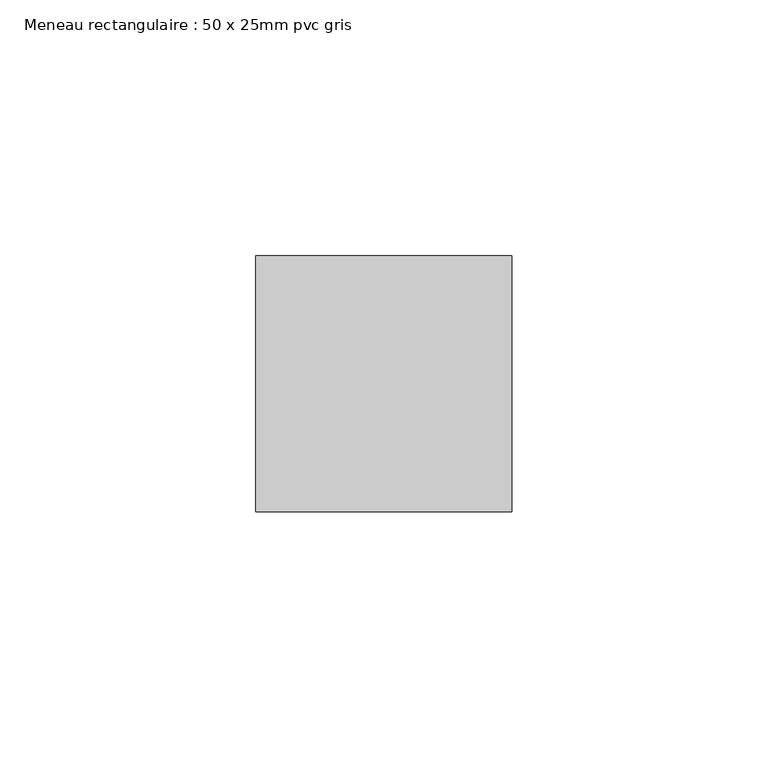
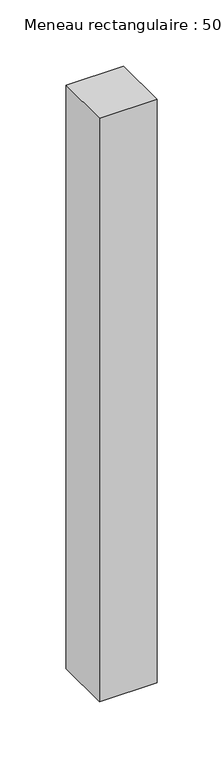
"""IFC4 building model written with IfcOpenShell, lengths in millimetres: member geometry, Meneau rectangulaire : 50 x 25mm pvc gris."""

import ifcopenshell
import ifcopenshell.guid

model = None  # the IFC model being written
_history = None  # IfcOwnerHistory: only IFC2X3 demands one
_inside = {}  # id of a spatial element -> (the spatial element, [elements in it])
_under = {}  # id of a project, library or spatial element -> (it, [spatial elements below it])
_declared = {}  # id of a project -> (the project, [libraries it declares])
_typed = {}  # id of a type object -> (the type object, [elements of that type])
_made_of = {}  # id of a material, layer set ... -> (it, [elements and type objects made of it])


def new_model(schema):
    """Start an empty IFC model of exactly this schema.

    Asked for "IFC4X3", IfcOpenShell would pick the latest addendum, in which some entities
    have other attributes; the version numbers below select the first issue.
    IFC2X3 requires an IfcOwnerHistory on every rooted entity: one is made here for all.
    """
    global model, _history
    if schema == "IFC4X3":
        model = ifcopenshell.file(schema_version=(4, 3, 0, 0))
    else:
        model = ifcopenshell.file(schema=schema)
    _inside.clear()
    _under.clear()
    _declared.clear()
    _typed.clear()
    _made_of.clear()
    _history = None
    if model.schema == "IFC2X3":
        org = make("IfcOrganization", Name="unknown")
        user = make(
            "IfcPersonAndOrganization",
            ThePerson=make("IfcPerson", FamilyName="unknown"),
            TheOrganization=org,
        )
        app = make(
            "IfcApplication",
            ApplicationDeveloper=org,
            Version="unknown",
            ApplicationFullName="unknown",
            ApplicationIdentifier="unknown",
        )
        _history = make(
            "IfcOwnerHistory",
            OwningUser=user,
            OwningApplication=app,
            ChangeAction="ADDED",
            CreationDate=0,
        )
    return model


def make(cls, **values):
    """One entity of the class cls with the attributes given. An attribute that is None is left unset."""
    return model.create_entity(
        cls, **{name: value for name, value in values.items() if value is not None}
    )


def rooted(cls, **values):
    """An entity with a GlobalId (a new one), such as an element, a storey or a relation."""
    return make(cls, GlobalId=ifcopenshell.guid.new(), OwnerHistory=_history, **values)


def si_unit(unit_type, name, prefix=None):
    """IfcSIUnit, for example si_unit("LENGTHUNIT", "METRE", prefix="MILLI")."""
    return make("IfcSIUnit", UnitType=unit_type, Prefix=prefix, Name=name)


def assignment(units):
    """IfcUnitAssignment: the units of a project."""
    return None if units is None else make("IfcUnitAssignment", Units=units)


def point(xyz):
    """IfcCartesianPoint."""
    return None if xyz is None else make("IfcCartesianPoint", Coordinates=xyz)


def direction(xyz):
    """IfcDirection."""
    return None if xyz is None else make("IfcDirection", DirectionRatios=xyz)


def frame(location, z_axis=None, x_axis=None):
    """IfcAxis2Placement3D, a coordinate frame: its origin and axes. An axis left out is left unset."""
    return make(
        "IfcAxis2Placement3D",
        Location=point(location),
        Axis=direction(z_axis),
        RefDirection=direction(x_axis),
    )


def origin():
    """The frame at (0, 0, 0) with its axes left unset."""
    return frame((0.0, 0.0, 0.0))


def place(relative_to, where):
    """IfcLocalPlacement: puts the frame where relative to a parent placement (None: the world)."""
    return make(
        "IfcLocalPlacement", PlacementRelTo=relative_to, RelativePlacement=where
    )


def context(
    kind, dimensions, precision=None, world=None, true_north=None, identifier=None
):
    """IfcGeometricRepresentationContext, for example the 3D "Model" context."""
    return make(
        "IfcGeometricRepresentationContext",
        ContextIdentifier=identifier,
        ContextType=kind,
        CoordinateSpaceDimension=dimensions,
        Precision=precision,
        WorldCoordinateSystem=world,
        TrueNorth=true_north,
    )


def project(units=None, contexts=None):
    """IfcProject with its units and contexts."""
    return rooted(
        "IfcProject",
        Name="project",
        RepresentationContexts=contexts,
        UnitsInContext=assignment(units),
    )


def spatial(cls, under=None, at=None, **own):
    """A site, building, storey or space (cls), placed at a placement, below another one or the project."""
    s = rooted(cls, ObjectPlacement=at, **own)
    if under is not None:
        _under.setdefault(under.id(), (under, []))[1].append(s)
    return s


def polyline(points):
    """IfcPolyline through the points."""
    return make("IfcPolyline", Points=[point(p) for p in points])


def outline(outer, holes=None, kind="AREA"):
    """IfcArbitraryClosedProfileDef: a profile drawn as a closed curve; with holes, ...WithVoids."""
    if holes is None:
        return make("IfcArbitraryClosedProfileDef", ProfileType=kind, OuterCurve=outer)
    return make(
        "IfcArbitraryProfileDefWithVoids",
        ProfileType=kind,
        OuterCurve=outer,
        InnerCurves=holes,
    )


def extrude(swept, where, along, depth):
    """IfcExtrudedAreaSolid: the profile swept, set in the frame where, extruded along a direction by depth."""
    return make(
        "IfcExtrudedAreaSolid",
        SweptArea=swept,
        Position=where,
        ExtrudedDirection=direction(along),
        Depth=depth,
    )


def shape(context_of_items, identifier, shape_type, items):
    """IfcShapeRepresentation: the items that make up one representation, for example the "Body"."""
    return make(
        "IfcShapeRepresentation",
        ContextOfItems=context_of_items,
        RepresentationIdentifier=identifier,
        RepresentationType=shape_type,
        Items=items,
    )


def source(mapping_origin, context_of_items, identifier, shape_type, items):
    """IfcRepresentationMap: a shape defined once, which mapped items show again and again."""
    return make(
        "IfcRepresentationMap",
        MappingOrigin=mapping_origin,
        MappedRepresentation=shape(context_of_items, identifier, shape_type, items),
    )


def transform(
    local_origin,
    x_axis=None,
    y_axis=None,
    z_axis=None,
    scale=None,
    scale2=None,
    scale3=None,
    uniform=True,
):
    """IfcCartesianTransformationOperator3D, or its non-uniform kind. x_axis, y_axis, z_axis: its Axis1, 2, 3."""
    if uniform:
        return make(
            "IfcCartesianTransformationOperator3D",
            Axis1=direction(x_axis),
            Axis2=direction(y_axis),
            LocalOrigin=point(local_origin),
            Scale=scale,
            Axis3=direction(z_axis),
        )
    return make(
        "IfcCartesianTransformationOperator3DnonUniform",
        Axis1=direction(x_axis),
        Axis2=direction(y_axis),
        LocalOrigin=point(local_origin),
        Scale=scale,
        Axis3=direction(z_axis),
        Scale2=scale2,
        Scale3=scale3,
    )


def mapped(mapping_source, mapping_target):
    """IfcMappedItem: shows the shape of a source again, moved by a transform."""
    return make(
        "IfcMappedItem", MappingSource=mapping_source, MappingTarget=mapping_target
    )


def made_of(thing, what):
    """Note that an element or type object is made of a material, layer set ...; save() writes the relation."""
    if what is not None:
        _made_of.setdefault(what.id(), (what, []))[1].append(thing)
    return thing


def element(
    cls,
    number,
    at=None,
    inside=None,
    cuts=None,
    type_object=None,
    material=None,
    context=None,
    identifier="Body",
    shape_type=None,
    held_by="IfcProductDefinitionShape",
    body=None,
    shapes=None,
    **own,
):
    """One element of the class cls, such as IfcWall. Its Tag is "e" and its number.

    at: its placement. inside: the storey or other place that contains it. cuts: it is an
    opening in that element (IfcRelVoidsElement). A single representation is given by context,
    identifier, shape_type and body (its items); several are given by shapes. held_by: the class
    of the entity that holds the representations. save() writes the other relations.
    """
    e = rooted(cls, Tag="e%d" % number, ObjectPlacement=at, **own)
    if body is not None:
        shapes = [shape(context, identifier, shape_type, body)]
    if shapes is not None:
        e.Representation = make(held_by, Representations=shapes)
    if inside is not None:
        _inside.setdefault(inside.id(), (inside, []))[1].append(e)
    if cuts is not None:
        rooted(
            "IfcRelVoidsElement", RelatingBuildingElement=cuts, RelatedOpeningElement=e
        )
    if type_object is not None:
        _typed.setdefault(type_object.id(), (type_object, []))[1].append(e)
    return made_of(e, material)


def aggregate(whole, parts):
    """IfcRelAggregates: a whole, such as a stair, and the parts it consists of."""
    return rooted("IfcRelAggregates", RelatingObject=whole, RelatedObjects=parts)


def save(model, path):
    """Write the relations noted so far, then the file.

    IfcRelAggregates (storeys below a building ...), IfcRelContainedInSpatialStructure (elements
    in a storey), IfcRelDefinesByType, IfcRelAssociatesMaterial and IfcRelDeclares: one each for
    every whole, place, type object, material and project.
    """
    for whole, parts in _under.values():
        aggregate(whole, parts)
    for where, things in _inside.values():
        rooted(
            "IfcRelContainedInSpatialStructure",
            RelatedElements=things,
            RelatingStructure=where,
        )
    for kind, things in _typed.values():
        rooted("IfcRelDefinesByType", RelatedObjects=things, RelatingType=kind)
    for what, things in _made_of.values():
        rooted("IfcRelAssociatesMaterial", RelatedObjects=things, RelatingMaterial=what)
    for by, libraries in _declared.values():
        rooted("IfcRelDeclares", RelatingContext=by, RelatedDefinitions=libraries)
    model.write(path)


def meneau_rectangulaire_50_x_25mm_pvc_gris_dec2765d(model_context):
    return source(origin(), model_context, "Body", "SweptSolid", [
        extrude(outline(polyline([(0.0, 0.0), (0.0, -50.0), (-50.0, -50.0), (-50.0, 0.0), (0.0, 0.0)])), frame((0.0, 0.0, -536.3632634), z_axis=(0.0, 0.0, 1.0), x_axis=(1.0, 0.0, 0.0)), (0.0, 0.0, 1.0), 536.3632634),
    ])


if __name__ == "__main__":
    model = new_model("IFC4")
    model_context = context("Model", 3, world=origin())
    ifc_project = project(units=[si_unit("LENGTHUNIT", "METRE", prefix="MILLI")], contexts=[model_context])
    site = spatial("IfcSite", under=ifc_project)
    building = spatial("IfcBuilding", under=site)
    placement = place(None, origin())
    meneau_rectangulaire_50_x_25mm_pvc_gris_shape = meneau_rectangulaire_50_x_25mm_pvc_gris_dec2765d(model_context)
    element("IfcMember", 1, ObjectType="Meneau rectangulaire : 50 x 25mm pvc gris", at=placement, inside=building, context=model_context, shape_type="MappedRepresentation", body=[
        mapped(meneau_rectangulaire_50_x_25mm_pvc_gris_shape, transform((0.0, 0.0, 0.0), x_axis=(1.0, 0.0, 0.0), y_axis=(0.0, 1.0, 0.0), z_axis=(0.0, 0.0, 1.0))),
    ])
    save(model, "model.ifc")
